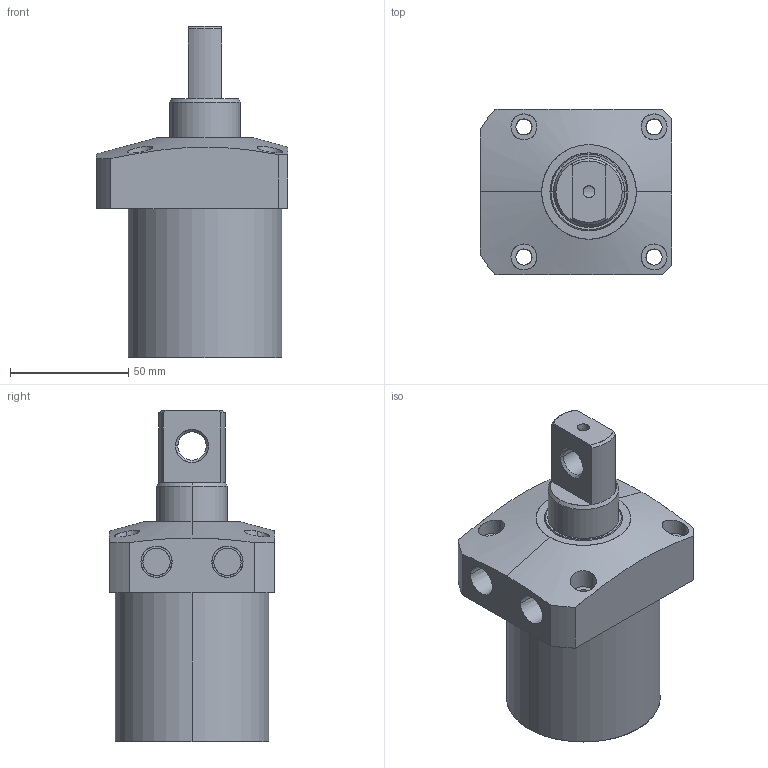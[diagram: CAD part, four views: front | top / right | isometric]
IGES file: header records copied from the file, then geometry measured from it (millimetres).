
Start section: SolidWorks IGES file using analytic representation for surfaces
Global section: file name: E:\karthik\CLASYS\Pneumatic Swing cylinders\Top mount cyl 0311-P\65\0312-0651.IGS; native system: SolidWorks 2010; preprocessor: SolidWorks 2010; author: karthik; date: 130916.102822; units: millimetre
Bounding box: 81 x 70 x 140 mm (x, y, z)
Surface area: 41816.5 mm2 (no closed solid volume)
Topology: 0 solids, 0 shells, 99 faces, 2594 edges, 2594 vertices
Faces by surface type: revolution 70, bspline 29
